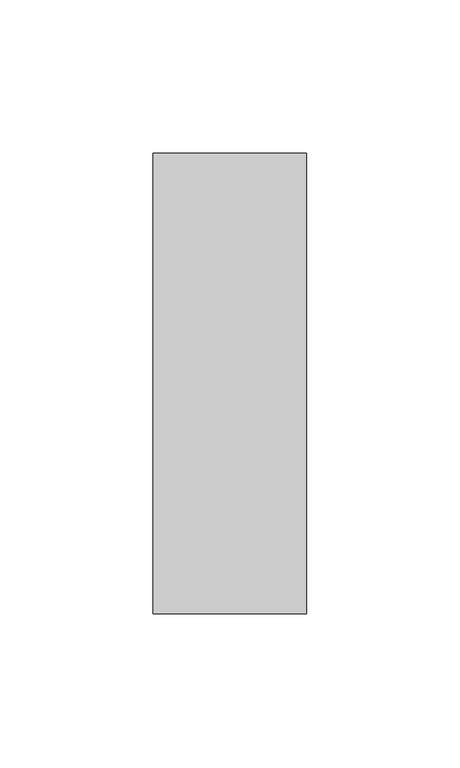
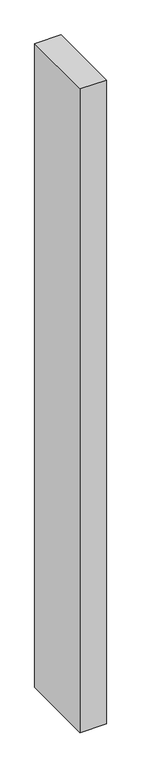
"""IFC4 building model written with IfcOpenShell, lengths in millimetres: member geometry, Прямоугольный импост : 50 x 150 мм."""

from ifc_helpers import new_model, si_unit, frame, origin, place, context, project, spatial, polyline, outline, extrude, source, transform, mapped, element, save


def member_644f9d31(model_context):
    return source(origin(), model_context, "Body", "SweptSolid", [
        extrude(outline(polyline([(25.0, 75.0), (25.0, -75.0), (-25.0, -75.0), (-25.0, 75.0), (25.0, 75.0)])), frame((0.0, 0.0, -1298.5134125), z_axis=(0.0, 0.0, 1.0), x_axis=(1.0, 0.0, 0.0)), (0.0, 0.0, 1.0), 1298.5134125),
    ])


if __name__ == "__main__":
    model = new_model("IFC4")
    model_context = context("Model", 3, world=origin())
    ifc_project = project(units=[si_unit("LENGTHUNIT", "METRE", prefix="MILLI")], contexts=[model_context])
    site = spatial("IfcSite", under=ifc_project)
    building = spatial("IfcBuilding", under=site)
    placement = place(None, origin())
    member_shape = member_644f9d31(model_context)
    element("IfcMember", 1, ObjectType="Прямоугольный импост : 50 x 150 мм", at=placement, inside=building, context=model_context, shape_type="MappedRepresentation", body=[
        mapped(member_shape, transform((0.0, 0.0, 0.0), x_axis=(1.0, 0.0, 0.0), y_axis=(0.0, 1.0, 0.0), z_axis=(0.0, 0.0, 1.0))),
    ])
    save(model, "model.ifc")
